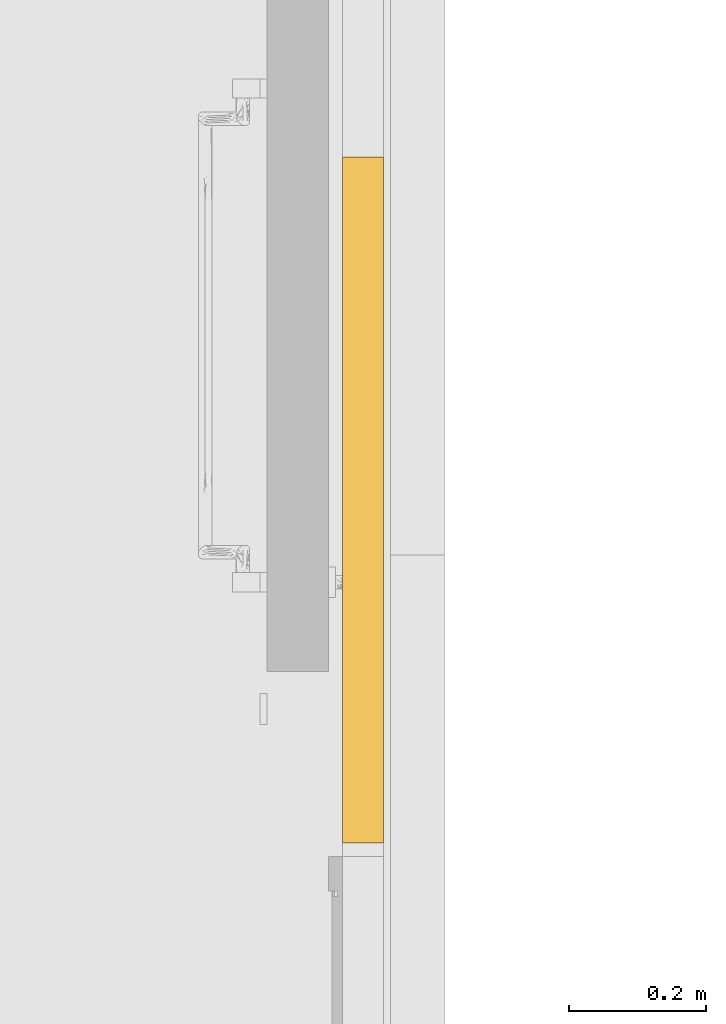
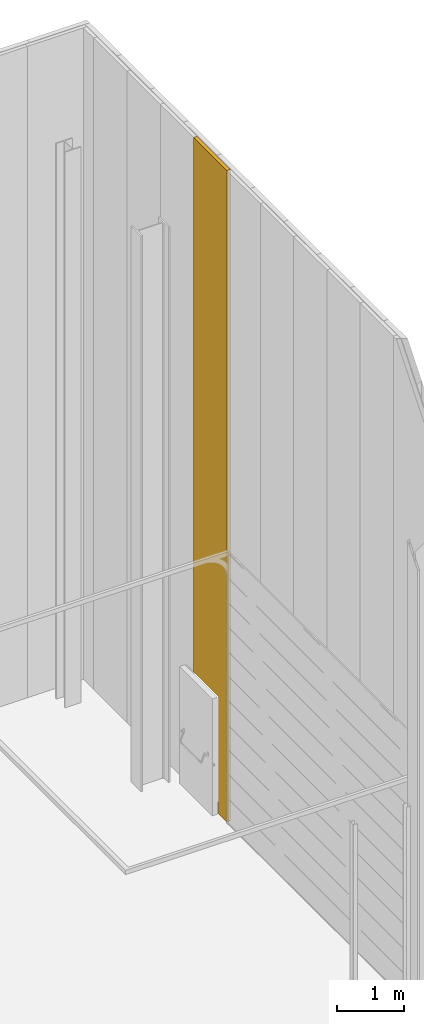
# One storey, part 249 of 302: 1 curtain wall, 1 opening, 1 element without a shape of its own.
"""IFC2X3 building model written with IfcOpenShell, lengths in metres."""

from ifc_helpers import new_model, entity, si_unit, converted_unit, derived_unit, direction, frame, frame_2d, origin, place, context, subcontext, project, spatial, rectangle, extrude, material, layer, layer_set, layer_usage, type_object, element, aggregate, save


model = new_model("IFC2X3")

# Units and contexts
model_context = context("Model", 3, precision=1e-05, world=origin(), true_north=direction((6.12303176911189e-17, 1.0)))
body_context = subcontext(model_context, "Body", "Model", "MODEL_VIEW")
ifc_project = project(units=[si_unit("LENGTHUNIT", "METRE"), si_unit("AREAUNIT", "SQUARE_METRE"), si_unit("VOLUMEUNIT", "CUBIC_METRE"), converted_unit("PLANEANGLEUNIT", "DEGREE", entity("IfcRatioMeasure", 0.0174532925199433), si_unit("PLANEANGLEUNIT", "RADIAN"), dimensions=[0, 0, 0, 0, 0, 0, 0]), si_unit("MASSUNIT", "GRAM", prefix="KILO"), derived_unit("MASSDENSITYUNIT", [(si_unit("MASSUNIT", "GRAM", prefix="KILO"), 1), (si_unit("LENGTHUNIT", "METRE"), -3)]), derived_unit("MOMENTOFINERTIAUNIT", [(si_unit("LENGTHUNIT", "METRE"), 4)]), si_unit("TIMEUNIT", "SECOND"), si_unit("FREQUENCYUNIT", "HERTZ"), si_unit("THERMODYNAMICTEMPERATUREUNIT", "DEGREE_CELSIUS"), derived_unit("THERMALTRANSMITTANCEUNIT", [(si_unit("MASSUNIT", "GRAM", prefix="KILO"), 1), (si_unit("THERMODYNAMICTEMPERATUREUNIT", "KELVIN"), -1), (si_unit("TIMEUNIT", "SECOND"), -3)]), derived_unit("VOLUMETRICFLOWRATEUNIT", [(si_unit("LENGTHUNIT", "METRE"), 3), (si_unit("TIMEUNIT", "SECOND"), -1)]), si_unit("ELECTRICCURRENTUNIT", "AMPERE"), si_unit("ELECTRICVOLTAGEUNIT", "VOLT"), si_unit("POWERUNIT", "WATT"), si_unit("FORCEUNIT", "NEWTON", prefix="KILO"), si_unit("ILLUMINANCEUNIT", "LUX"), si_unit("LUMINOUSFLUXUNIT", "LUMEN"), si_unit("LUMINOUSINTENSITYUNIT", "CANDELA"), derived_unit("USERDEFINED", [(si_unit("MASSUNIT", "GRAM", prefix="KILO"), -1), (si_unit("LENGTHUNIT", "METRE"), -2), (si_unit("TIMEUNIT", "SECOND"), 3), (si_unit("LUMINOUSFLUXUNIT", "LUMEN"), 1)]), derived_unit("LINEARVELOCITYUNIT", [(si_unit("LENGTHUNIT", "METRE"), 1), (si_unit("TIMEUNIT", "SECOND"), -1)]), si_unit("PRESSUREUNIT", "PASCAL"), derived_unit("USERDEFINED", [(si_unit("LENGTHUNIT", "METRE"), -2), (si_unit("MASSUNIT", "GRAM", prefix="KILO"), 1), (si_unit("TIMEUNIT", "SECOND"), -2)]), derived_unit("LINEARFORCEUNIT", [(si_unit("MASSUNIT", "GRAM", prefix="KILO"), 1), (si_unit("LENGTHUNIT", "METRE"), 1), (si_unit("TIMEUNIT", "SECOND"), -2), (si_unit("LENGTHUNIT", "METRE"), -1)]), derived_unit("PLANARFORCEUNIT", [(si_unit("MASSUNIT", "GRAM", prefix="KILO"), 1), (si_unit("LENGTHUNIT", "METRE"), 1), (si_unit("TIMEUNIT", "SECOND"), -2), (si_unit("LENGTHUNIT", "METRE"), -2)])], contexts=[model_context])

# Site, building, storey
site_placement = place(None, origin())
site = spatial("IfcSite", under=ifc_project, at=site_placement, Name="Default", CompositionType="ELEMENT")
building_placement = place(site_placement, origin())
building = spatial("IfcBuilding", under=site, at=building_placement, CompositionType="ELEMENT")
storey_placement = place(building_placement, frame((0.0, 0.0, -1.3)))
storey = spatial("IfcBuildingStorey", under=building, at=storey_placement, Name="00_EG", CompositionType="ELEMENT", Elevation=-1.3)

# Curtain walls, opening
curtain_wall_type_1 = type_object("IfcCurtainWallType", PredefinedType="NOTDEFINED")
curtain_wall_1_placement = place(storey_placement, frame((0.0, 0.0, 1.3)))
curtain_wall_1 = element("IfcCurtainWall", 1, at=curtain_wall_1_placement, inside=storey, type_object=curtain_wall_type_1)
ifc_material_1 = material(Name="Prepainted_Steel-ArcelorMittal_Construction_HAIRULTRA-35-CORAL-4309-[RAL_3000]")
ifc_layer_1 = layer(ifc_material_1, 0.01)
ifc_material_2 = material(Name="ArcelorMittal-MineralWool")
ifc_layer_2 = layer(ifc_material_2, 0.04)
ifc_layer_3 = layer(ifc_material_1, 0.01)
ifc_layer_set = layer_set([ifc_layer_1, ifc_layer_2, ifc_layer_3], Name="Fassade:Sandwichpaneele Gebäude B 60mm")
ifc_layer_usage = layer_usage(ifc_layer_set, "AXIS2", "POSITIVE", -0.03)
curtain_wall_type_2 = type_object("IfcCurtainWallType", Name="Basiswand:Sandwichpaneele d = 6cm aussen", PredefinedType="NOTDEFINED", material=ifc_layer_set)
curtain_wall_2_placement = place(storey_placement, frame((-177.390111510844, 71.7480889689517, 1.27), z_axis=(0.0, 0.0, 1.0), x_axis=(0.0, 1.0, 0.0)))
curtain_wall_2 = element("IfcCurtainWall", 2, at=curtain_wall_2_placement, type_object=curtain_wall_type_2, material=ifc_layer_usage, Name="Basiswand:Sandwichpaneele d = 6cm aussen", ObjectType="Basiswand:Sandwichpaneele d = 6cm aussen", context=body_context, shape_type="SweptSolid", body=[
    extrude(rectangle(XDim=0.999999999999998, YDim=0.0599999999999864, at=frame_2d((0.499999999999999, 0.0), x_axis=(-1.0, 0.0))), origin(), (0.0, 0.0, 1.0), 11.9314),
])
opening_placement = place(curtain_wall_2_placement, frame((-71.7480889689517, -177.390111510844, -1.27), z_axis=(0.0, 0.0, 1.0), x_axis=(0.0, -1.0, 0.0)))
element("IfcOpeningElement", 3, at=opening_placement, cuts=curtain_wall_2, Name="Basiswand:Sandwichpaneele d = 6cm aussen", ObjectType="Opening", context=body_context, shape_type="SweptSolid", body=[
    extrude(rectangle(XDim=2.16999999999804, YDim=0.979999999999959, at=frame_2d((-5.55111512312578e-16, 2.60069743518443e-14), x_axis=(1.0, 0.0))), frame((-177.270111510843, 72.4880889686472, 2.324999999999), z_axis=(-1.0, 0.0, 0.0), x_axis=(0.0, 0.0, -1.0)), (0.0, 0.0, 1.0), 0.169999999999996),
])
aggregate(curtain_wall_1, [curtain_wall_2])

save(model, "model.ifc")
